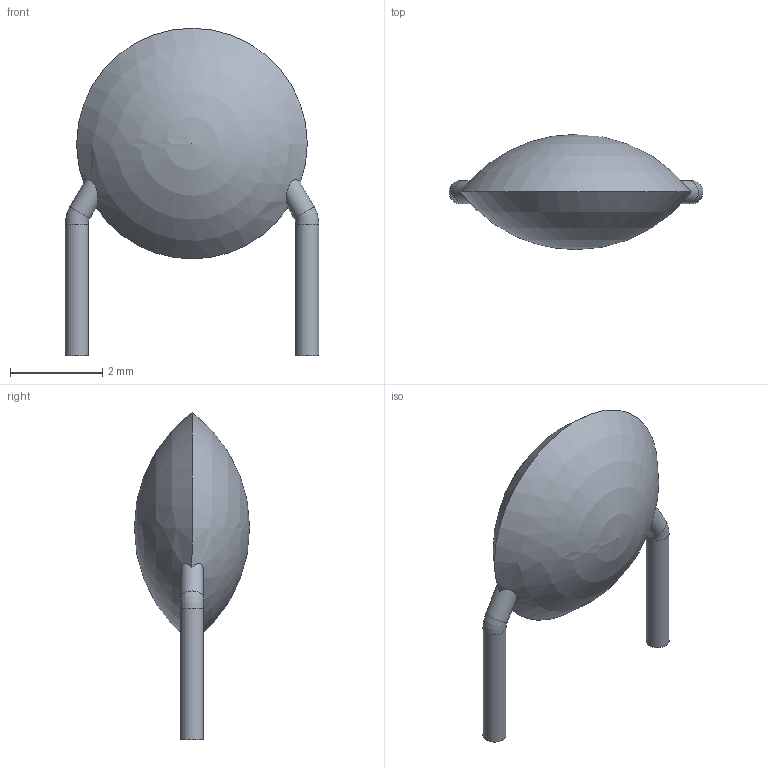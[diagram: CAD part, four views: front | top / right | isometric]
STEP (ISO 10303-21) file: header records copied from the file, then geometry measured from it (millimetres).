
FILE_DESCRIPTION(/* description */ ('STEP AP242 Edition 2','CAx-IF Rec.Pracs.---Representation and Presentation of Product Manufacturing Information (PMI)---4.0---2014-10-13','CAx-IF Rec.Pracs.---3D Tessellated Geometry---0.4---2014-09-14','2;1','CAx-IF Rec.Pracs.---User Defined Attributes---1.5---2016-08-15'),/* implementation_level */ '2;1');
FILE_NAME(/* name */ 'Part Studio 1 - Surface 2',/* time_stamp */ '2026-11-25T23:28:52Z',/* author */ (''),/* organization */ (''),/* preprocessor_version */ 'ST-DEVELOPER v20',/* originating_system */ 'ONSHAPE BY PTC INC, 1.224',/* authorisation */ ' ');
FILE_SCHEMA (('AP242_MANAGED_MODEL_BASED_3D_ENGINEERING_MIM_LF { 1 0 10303 442 3 1 4 }'));
Length unit declared in the file: metre
Products named in the file (1): C_Disc_D50mm_W25mm_P500mm
Bounding box: 5.5 x 2.5 x 7.1 mm (x, y, z)
Volume: 28 mm3; surface area: 60.5 mm2
Topology: 1 solids, 1 shells, 10 faces, 23 edges, 13 vertices
Faces by surface type: cylinder 4, plane 2, torus 2, sphere 2
Full cylindrical faces by diameter (mm): 0.5 x4
Entity records: 257 total; most frequent: CARTESIAN_POINT 57, DIRECTION 38, ORIENTED_EDGE 24, AXIS2_PLACEMENT_3D 19, EDGE_LOOP 16, FACE_BOUND 16, EDGE_CURVE 12, VERTEX_POINT 10
